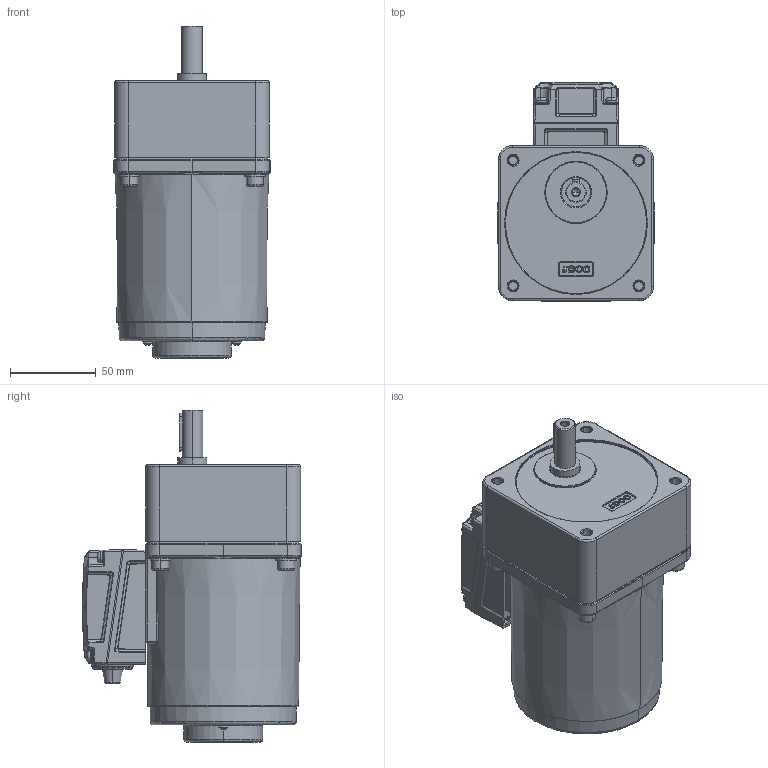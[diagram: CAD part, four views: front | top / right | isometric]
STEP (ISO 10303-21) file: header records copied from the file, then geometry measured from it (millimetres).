
FILE_DESCRIPTION( ('This file contains a STEP AP42 implementation' ,'as created by ZW3D STEP Interface translator.' ,'') ,'2;1' );
FILE_NAME( '40yt01-18.stp' ,'24 712.11 715', (''), ('ZWCAD Software Co.'), 'Version 1.0', 'ZW3D to STEP translator', '' );
FILE_SCHEMA(('AUTOMOTIVE_DESIGN { 1 0 10303 214 1 1 1 1 }'));
Length unit declared in the file: millimetre
Products named in the file (8): 0; 40yt01-18; 90YT40G_ASM; 90YT40G_1; 90YT40G_2; YCX_6-200; 3D-JXH-150_300; 90GK-H-18
Assembly tree (6 placements, depth 3):
  0
  40yt01-18
    90YT40G_ASM
      90YT40G_1
      90YT40G_2
      YCX_6-200
    3D-JXH-150_300
    90GK-H-18
Bounding box: 91.48 x 127.99 x 194 mm (x, y, z)
Volume: 568426.7 mm3; surface area: 163332.3 mm2
Topology: 5 solids, 15 shells, 2811 faces, 7107 edges, 4450 vertices
Faces by surface type: plane 1344, cylinder 636, bspline 632, cone 109, torus 84, sphere 6
Entity records: 129862 total; most frequent: CARTESIAN_POINT 65327, ORIENTED_EDGE 14174, DIRECTION 10717, EDGE_CURVE 7087, VERTEX_POINT 4450, VECTOR 3721, LINE 3721, AXIS2_PLACEMENT_3D 3498
